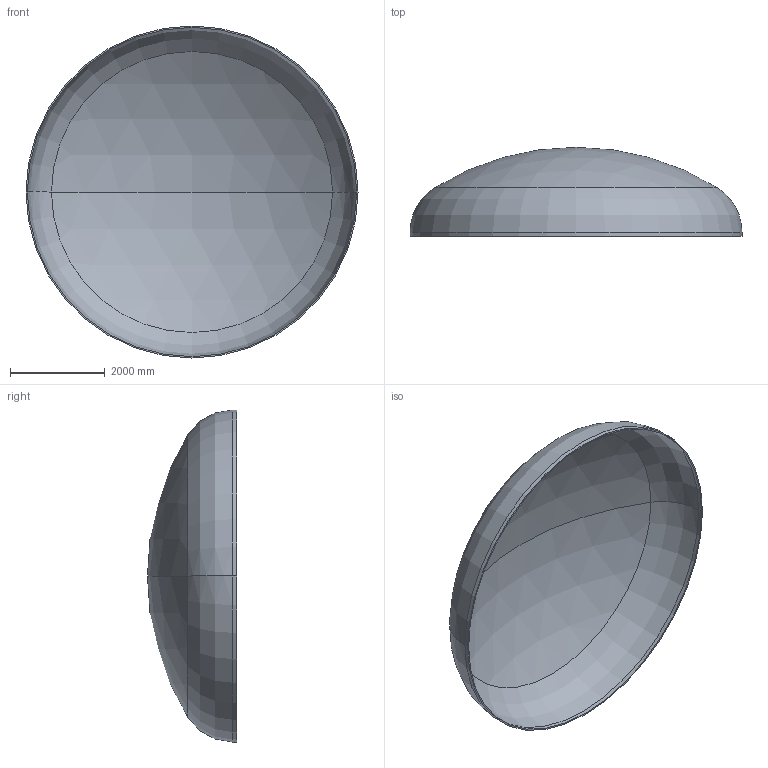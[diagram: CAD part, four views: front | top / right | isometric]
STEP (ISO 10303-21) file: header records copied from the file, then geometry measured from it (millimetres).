
FILE_DESCRIPTION (( 'STEP AP203' ), '1' );
FILE_NAME ('DIN 28013 Korbbogenform_-_Boden DIN 28013 - 7000 x 85 - I - s=28.step', '2016-07-04T10:46:20', ( '' ), ( '' ), 'SwSTEP 2.0', 'SolidWorks 2013', '' );
FILE_SCHEMA (( 'CONFIG_CONTROL_DESIGN' ));
Length unit declared in the file: millimetre
Products named in the file (1): DIN 28013 Korbbogenform_-_Boden DIN 28013 - 7000 x 85 - I - s=28
Bounding box: 7000 x 1877.8 x 7000 mm (x, y, z)
Volume: 1537284169.3 mm3; surface area: 110420899.2 mm2
Topology: 1 solids, 1 shells, 13 faces, 24 edges, 14 vertices
Faces by surface type: torus 4, cylinder 4, sphere 4, plane 1
Entity records: 407 total; most frequent: DIRECTION 72, CARTESIAN_POINT 52, ORIENTED_EDGE 48, AXIS2_PLACEMENT_3D 34, EDGE_CURVE 24, CIRCLE 20, EDGE_LOOP 14, VERTEX_POINT 14
